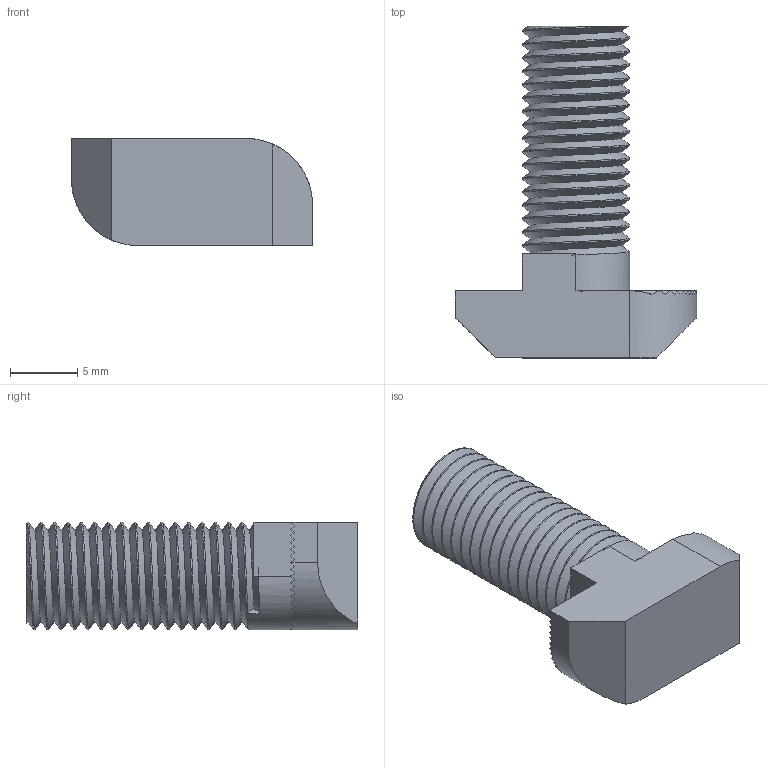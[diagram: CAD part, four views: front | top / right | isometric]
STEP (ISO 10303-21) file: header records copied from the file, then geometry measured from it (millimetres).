
FILE_DESCRIPTION (( 'STEP AP203' ), '1' );
FILE_NAME ('113-CE-TS-40.STEP', '2015-07-09T08:45:15', ( '' ), ( '' ), 'SwSTEP 2.0', 'SolidWorks 2013', '' );
FILE_SCHEMA (( 'CONFIG_CONTROL_DESIGN' ));
Length unit declared in the file: millimetre
Products named in the file (1): 113-CE-TS-40
Bounding box: 18 x 24.75 x 8 mm (x, y, z)
Volume: 1501.5 mm3; surface area: 1221.5 mm2
Topology: 1 solids, 1 shells, 117 faces, 338 edges, 223 vertices
Faces by surface type: plane 77, cylinder 38, bspline 2
Entity records: 7303 total; most frequent: CARTESIAN_POINT 4559, ORIENTED_EDGE 676, DIRECTION 427, EDGE_CURVE 338, VERTEX_POINT 223, VECTOR 185, LINE 185, AXIS2_PLACEMENT_3D 121
